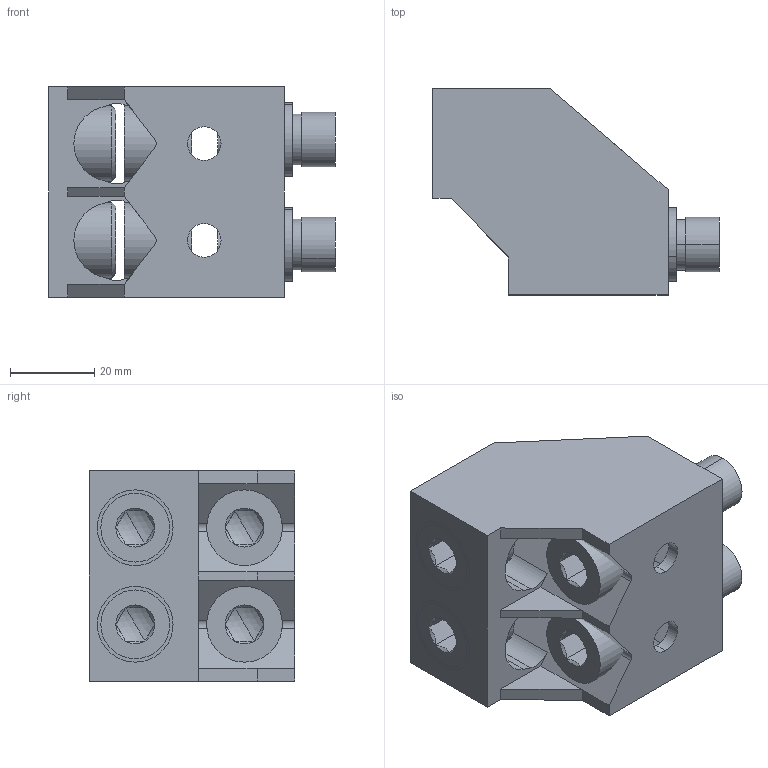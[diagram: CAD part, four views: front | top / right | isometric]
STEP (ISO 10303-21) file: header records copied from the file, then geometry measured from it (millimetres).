
FILE_DESCRIPTION (( 'STEP AP203' ), '1' );
FILE_NAME ('Çàæèì ¹2 ÂÀ57-39 (4-õ ãíåçäíûé).STEP', '2016-10-20T06:17:31', ( 'admin' ), ( '' ), 'SwSTEP 2.0', 'SolidWorks 2012', '' );
FILE_SCHEMA (( 'CONFIG_CONTROL_DESIGN' ));
Length unit declared in the file: millimetre
Products named in the file (1): Çàæèì ¹2 ÂÀ57-39 (4-õ ãíåçäíûé)
Bounding box: 68.2 x 49 x 50 mm (x, y, z)
Volume: 73067.2 mm3; surface area: 31162.9 mm2
Topology: 11 solids, 11 shells, 240 faces, 552 edges, 334 vertices
Faces by surface type: plane 114, cylinder 78, cone 32, sphere 16
Entity records: 7513 total; most frequent: CARTESIAN_POINT 1951, DIRECTION 1204, ORIENTED_EDGE 1104, EDGE_CURVE 552, AXIS2_PLACEMENT_3D 475, VERTEX_POINT 334, EDGE_LOOP 264, LINE 254
